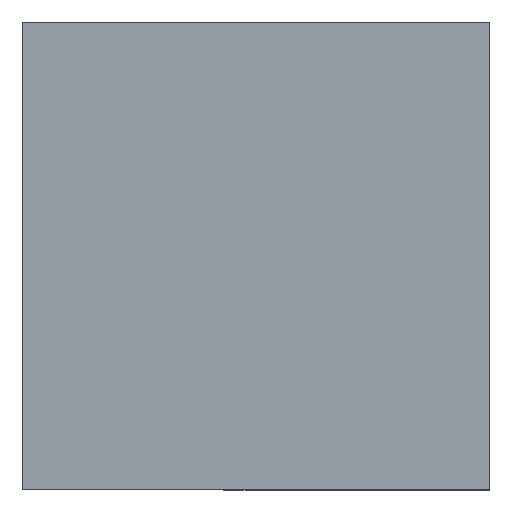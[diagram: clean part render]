
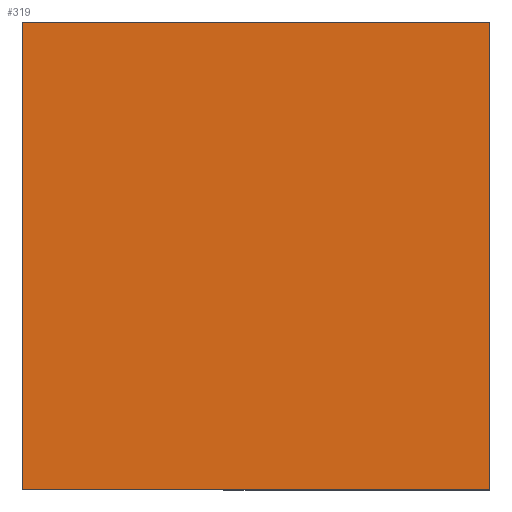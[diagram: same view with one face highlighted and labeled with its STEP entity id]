
A CAD part, top view. The second image highlights one B-rep face of the part: STEP entity #319.
In plain terms, the highlighted planar face has unit normal (0, 0, 1).
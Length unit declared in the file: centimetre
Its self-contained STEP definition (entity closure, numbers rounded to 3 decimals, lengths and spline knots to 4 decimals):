
#33 = DIRECTION ( 'NONE',  ( 0., -1., 0. ) ) ;
#51 = ORIENTED_EDGE ( 'NONE', *, *, #507, .T. ) ;
#64 = ORIENTED_EDGE ( 'NONE', *, *, #190, .T. ) ;
#79 = DIRECTION ( 'NONE',  ( -1., 0., 0. ) ) ;
#81 = CARTESIAN_POINT ( 'NONE',  ( 0., 1000., 1000. ) ) ;
#83 = EDGE_CURVE ( 'NONE', #268, #345, #589, .T. ) ;
#104 = VECTOR ( 'NONE', #79, 100. ) ;
#117 = EDGE_CURVE ( 'NONE', #588, #268, #222, .T. ) ;
#118 = CARTESIAN_POINT ( 'NONE',  ( 0., 1000., 1000. ) ) ;
#123 = CARTESIAN_POINT ( 'NONE',  ( 1000., 1000., 1000. ) ) ;
#171 = VECTOR ( 'NONE', #405, 100. ) ;
#183 = CARTESIAN_POINT ( 'NONE',  ( 0., 0., 1000. ) ) ;
#190 = EDGE_CURVE ( 'NONE', #526, #588, #219, .T. ) ;
#209 = EDGE_LOOP ( 'NONE', ( #572, #51, #64, #395 ) ) ;
#219 = LINE ( 'NONE', #363, #603 ) ;
#222 = LINE ( 'NONE', #418, #104 ) ;
#233 = DIRECTION ( 'NONE',  ( 1., 0., 0. ) ) ;
#243 = FACE_OUTER_BOUND ( 'NONE', #209, .T. ) ;
#263 = VECTOR ( 'NONE', #33, 100. ) ;
#268 = VERTEX_POINT ( 'NONE', #81 ) ;
#304 = LINE ( 'NONE', #577, #171 ) ;
#319 = ADVANCED_FACE ( 'NONE', ( #243 ), #602, .T. ) ;
#345 = VERTEX_POINT ( 'NONE', #517 ) ;
#353 = CARTESIAN_POINT ( 'NONE',  ( 1000., 0., 1000. ) ) ;
#363 = CARTESIAN_POINT ( 'NONE',  ( 1000., 1000., 1000. ) ) ;
#395 = ORIENTED_EDGE ( 'NONE', *, *, #117, .T. ) ;
#405 = DIRECTION ( 'NONE',  ( 1., 0., 0. ) ) ;
#418 = CARTESIAN_POINT ( 'NONE',  ( 0., 1000., 1000. ) ) ;
#507 = EDGE_CURVE ( 'NONE', #345, #526, #304, .T. ) ;
#517 = CARTESIAN_POINT ( 'NONE',  ( 0., 0., 1000. ) ) ;
#521 = DIRECTION ( 'NONE',  ( 0., 0., 1. ) ) ;
#526 = VERTEX_POINT ( 'NONE', #353 ) ;
#533 = AXIS2_PLACEMENT_3D ( 'NONE', #183, #521, #233 ) ;
#542 = DIRECTION ( 'NONE',  ( 0., 1., 0. ) ) ;
#572 = ORIENTED_EDGE ( 'NONE', *, *, #83, .T. ) ;
#577 = CARTESIAN_POINT ( 'NONE',  ( 0., 0., 1000. ) ) ;
#588 = VERTEX_POINT ( 'NONE', #123 ) ;
#589 = LINE ( 'NONE', #118, #263 ) ;
#602 = PLANE ( 'NONE',  #533 ) ;
#603 = VECTOR ( 'NONE', #542, 100. ) ;
